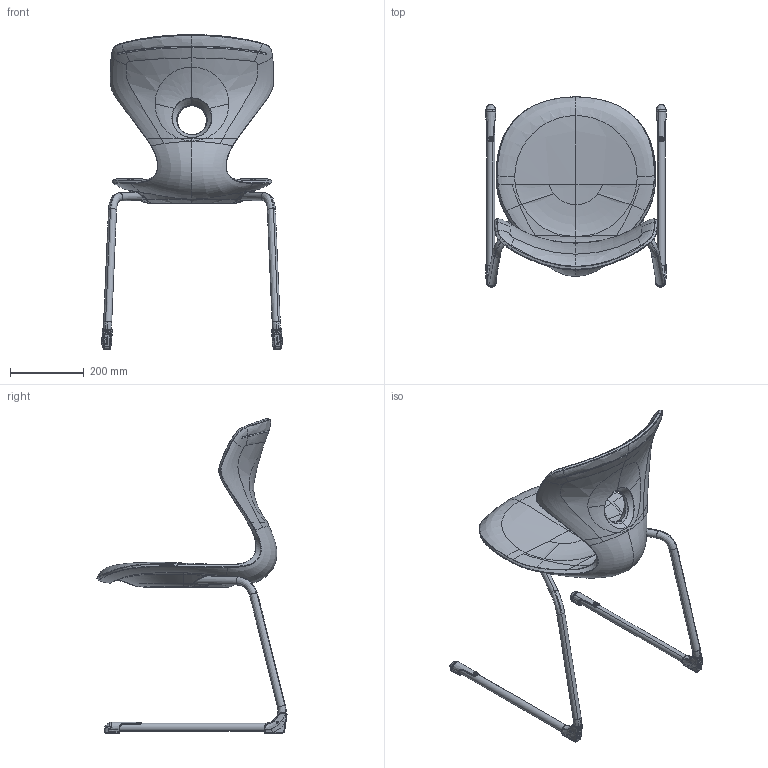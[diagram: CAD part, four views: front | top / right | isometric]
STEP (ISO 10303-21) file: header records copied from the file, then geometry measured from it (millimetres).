
FILE_DESCRIPTION(/* description */ (''),/* implementation_level */ '2;1');
FILE_NAME(/* name */ 'c-noha',/* time_stamp */ '2017-10-30T13:27:49+01:00',/* author */ (''),/* organization */ (''),/* preprocessor_version */ 'ST-DEVELOPER v10',/* originating_system */ '',/* authorisation */ '');
FILE_SCHEMA (('CONFIG_CONTROL_DESIGN'));
Products named in the file (1): 1
Bounding box: 489.59 x 515.23 x 853.19 mm (x, y, z)
Surface area: 1377528.9 mm2 (no closed solid volume)
Topology: 0 solids, 23 shells, 1192 faces, 3347 edges, 2164 vertices
Faces by surface type: bspline 1066, plane 126
Entity records: 145597 total; most frequent: CARTESIAN_POINT 126727, ORIENTED_EDGE 5951, EDGE_CURVE 3343, B_SPLINE_CURVE_WITH_KNOTS 2719, VERTEX_POINT 2164, EDGE_LOOP 1225, ADVANCED_FACE 1192, FACE_OUTER_BOUND 1192
